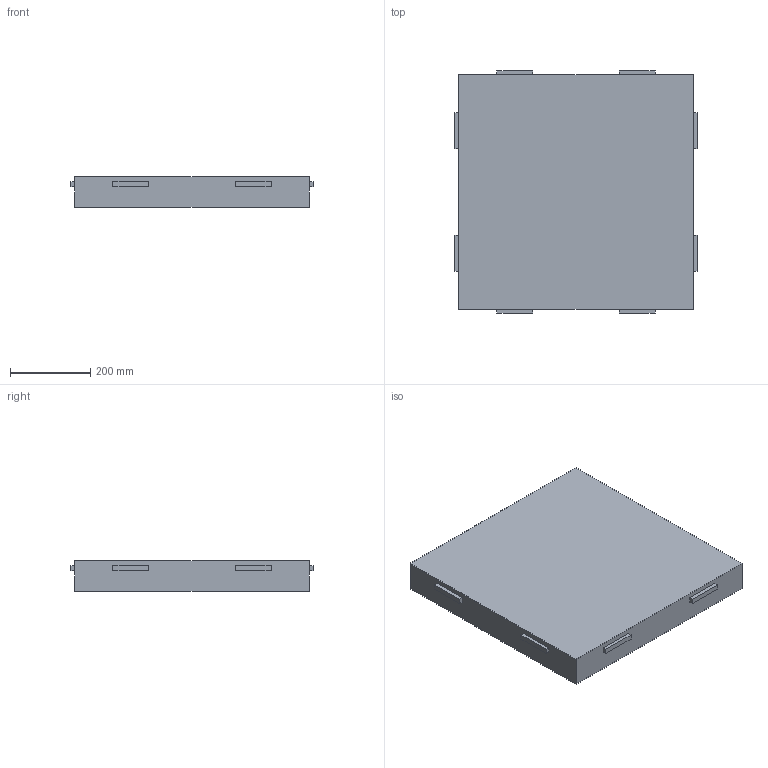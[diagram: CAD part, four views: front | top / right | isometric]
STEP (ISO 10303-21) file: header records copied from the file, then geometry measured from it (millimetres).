
FILE_DESCRIPTION(/* description */ (''),/* implementation_level */ '2;1');
FILE_NAME(/* name */ 'PET KEYS_2x2_2',/* time_stamp */ '2024-10-14T11:04:31-05:00',/* author */ (''),/* organization */ (''),/* preprocessor_version */ 'ST-DEVELOPER v19.2',/* originating_system */ 'Rhino 8.4',/* authorisation */ '');
FILE_SCHEMA (('CONFIG_CONTROL_DESIGN'));
Length unit declared in the file: inch
Products named in the file (1): Document
Bounding box: 603.25 x 603.25 x 76.2 mm (x, y, z)
Volume: 26092302.7 mm3; surface area: 876127.3 mm2
Topology: 1 solids, 1 shells, 46 faces, 108 edges, 72 vertices
Faces by surface type: plane 46
Entity records: 1226 total; most frequent: CARTESIAN_POINT 336, ORIENTED_EDGE 216, EDGE_CURVE 108, B_SPLINE_CURVE_WITH_KNOTS 108, VERTEX_POINT 72, EDGE_LOOP 54, DIRECTION 50, AXIS2_PLACEMENT_3D 48
